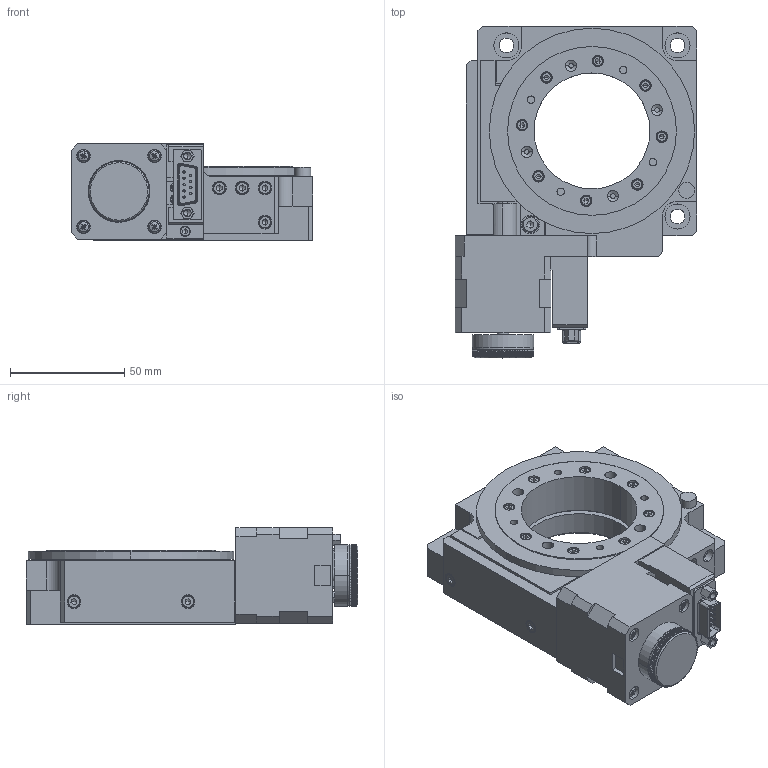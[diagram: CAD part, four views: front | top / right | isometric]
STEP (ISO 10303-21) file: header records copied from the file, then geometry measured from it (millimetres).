
FILE_DESCRIPTION (( 'STEP AP203' ), '1' );
FILE_NAME ('8MR190-2-4233.STEP', '2011-06-17T08:12:51', ( 'vadybininkas6' ), ( '' ), 'SwSTEP 2.0', 'SolidWorks 2003240', '' );
FILE_SCHEMA (( 'CONFIG_CONTROL_DESIGN' ));
Length unit declared in the file: millimetre
Products named in the file (1): 8MR190-2-4233
Bounding box: 106 x 145.5 x 42.5 mm (x, y, z)
Volume: 269480 mm3; surface area: 102098 mm2
Topology: 1 solids, 60 shells, 2400 faces, 5949 edges, 3800 vertices
Faces by surface type: cylinder 1071, plane 981, cone 226, bspline 122
Entity records: 76375 total; most frequent: CARTESIAN_POINT 19661, DIRECTION 12007, ORIENTED_EDGE 11722, EDGE_CURVE 5861, AXIS2_PLACEMENT_3D 4701, VERTEX_POINT 3800, EDGE_LOOP 2729, LINE 2605
